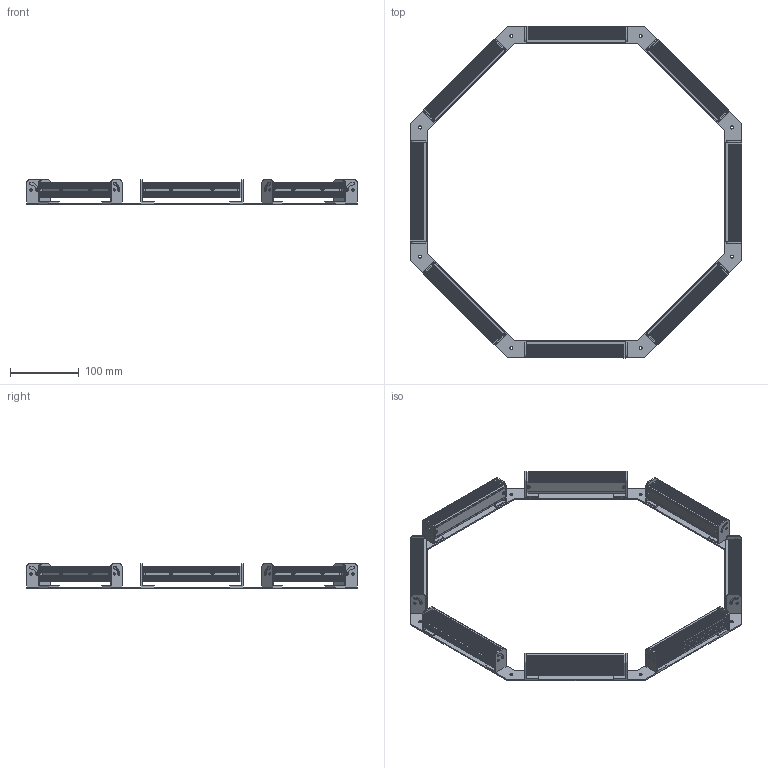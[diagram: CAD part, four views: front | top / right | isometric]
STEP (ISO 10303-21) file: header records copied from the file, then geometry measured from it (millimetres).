
FILE_DESCRIPTION((''),'2;1');
FILE_NAME('MSL-102-102_ASM','2020-03-26T',('ASUS'),(''),'PRO/ENGINEER BY PARAMETRIC TECHNOLOGY CORPORATION, 2008380','PRO/ENGINEER BY PARAMETRIC TECHNOLOGY CORPORATION, 2008380','');
FILE_SCHEMA(('CONFIG_CONTROL_DESIGN'));
Length unit declared in the file: millimetre
Products named in the file (3): PRT0002; PRT0011; MSL-102-102_ASM
Assembly tree (9 placements, depth 2):
  MSL-102-102_ASM
    PRT0002
    PRT0011  x8
Bounding box: 482.05 x 482.05 x 36 mm (x, y, z)
Volume: 637859.8 mm3; surface area: 316099.6 mm2
Topology: 9 solids, 41 shells, 2466 faces, 6624 edges, 4384 vertices
Faces by surface type: plane 1474, cylinder 832, cone 160
Entity records: 17678 total; most frequent: CARTESIAN_POINT 3192, DIRECTION 3038, ORIENTED_EDGE 2968, EDGE_CURVE 1492, AXIS2_PLACEMENT_3D 1023, VERTEX_POINT 996, VECTOR 992, LINE 992
